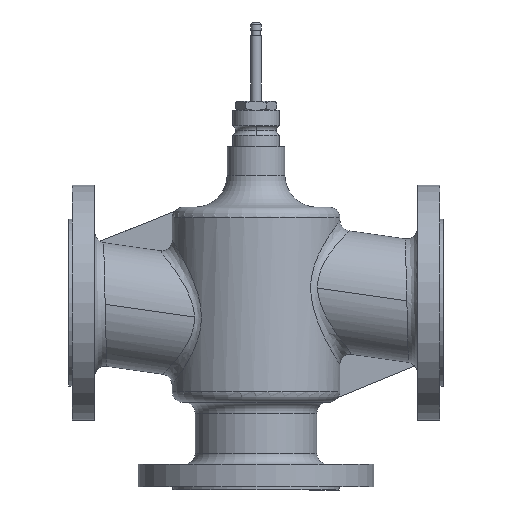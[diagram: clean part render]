
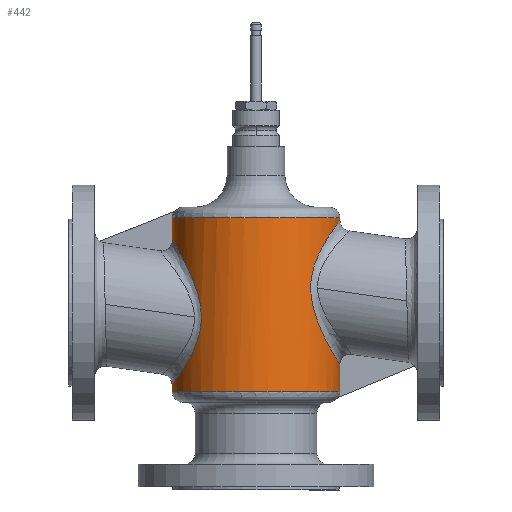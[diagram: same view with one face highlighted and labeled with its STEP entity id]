
A CAD part, left-side view. The second image highlights one B-rep face of the part: STEP entity #442.
In plain terms, the highlighted cylindrical face has radius 78.407 mm (diameter 156.814 mm), a partial arc.
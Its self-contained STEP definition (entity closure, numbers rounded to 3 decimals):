
#225=CIRCLE('',#2949,78.407);
#233=CIRCLE('',#2959,78.407);
#442=ADVANCED_FACE('',(#704),#602,.T.);
#602=CYLINDRICAL_SURFACE('',#2967,78.407);
#704=FACE_OUTER_BOUND('',#851,.T.);
#851=EDGE_LOOP('',(#1186,#1187,#1188,#1189,#1190,#1191,#1192,#1193));
#1095=B_SPLINE_CURVE_WITH_KNOTS('',3,(#4561,#4562,#4563,#4564,#4565,#4566,
#4567,#4568,#4569,#4570,#4571,#4572,#4573,#4574,#4575,#4576,#4577,#4578,
#4579,#4580,#4581,#4582),.UNSPECIFIED.,.F.,.F.,(4,2,2,2,2,2,2,2,2,2,4),(0.,
0.073,0.171,0.278,0.378,
0.485,0.59,0.683,0.777,
0.928,1.),.UNSPECIFIED.);
#1096=B_SPLINE_CURVE_WITH_KNOTS('',3,(#4585,#4586,#4587,#4588,#4589,#4590,
#4591,#4592,#4593,#4594,#4595,#4596,#4597,#4598,#4599,#4600,#4601,#4602,
#4603,#4604,#4605,#4606,#4607,#4608),.UNSPECIFIED.,.F.,.F.,(4,2,2,2,2,2,
2,2,2,2,2,4),(0.,0.073,0.168,0.278,0.381,
0.488,0.584,0.698,0.824,
0.892,0.961,1.),.UNSPECIFIED.);
#1186=ORIENTED_EDGE('',*,*,#2273,.T.);
#1187=ORIENTED_EDGE('',*,*,#2262,.F.);
#1188=ORIENTED_EDGE('',*,*,#2294,.T.);
#1189=ORIENTED_EDGE('',*,*,#2295,.F.);
#1190=ORIENTED_EDGE('',*,*,#2277,.T.);
#1191=ORIENTED_EDGE('',*,*,#2284,.F.);
#1192=ORIENTED_EDGE('',*,*,#2296,.T.);
#1193=ORIENTED_EDGE('',*,*,#2297,.F.);
#1979=VERTEX_POINT('',#4376);
#1980=VERTEX_POINT('',#4378);
#1990=VERTEX_POINT('',#4460);
#1993=VERTEX_POINT('',#4489);
#1994=VERTEX_POINT('',#4491);
#2000=VERTEX_POINT('',#4531);
#2006=VERTEX_POINT('',#4560);
#2007=VERTEX_POINT('',#4584);
#2262=EDGE_CURVE('',#1979,#1980,#225,.T.);
#2273=EDGE_CURVE('',#1990,#1980,#2661,.T.);
#2277=EDGE_CURVE('',#1994,#1993,#2663,.T.);
#2284=EDGE_CURVE('',#2000,#1993,#233,.T.);
#2294=EDGE_CURVE('',#1979,#2006,#2667,.T.);
#2295=EDGE_CURVE('',#1994,#2006,#1095,.T.);
#2296=EDGE_CURVE('',#2000,#2007,#2668,.T.);
#2297=EDGE_CURVE('',#1990,#2007,#1096,.T.);
#2661=LINE('',#4459,#2801);
#2663=LINE('',#4490,#2803);
#2667=LINE('',#4559,#2807);
#2668=LINE('',#4583,#2808);
#2801=VECTOR('',#3372,1.);
#2803=VECTOR('',#3376,1.);
#2807=VECTOR('',#3402,1.);
#2808=VECTOR('',#3403,1.);
#2949=AXIS2_PLACEMENT_3D('',#4377,#3358,#3359);
#2959=AXIS2_PLACEMENT_3D('',#4532,#3384,#3385);
#2967=AXIS2_PLACEMENT_3D('',#4609,#3404,#3405);
#3358=DIRECTION('',(0.,0.,-1.));
#3359=DIRECTION('',(0.,-1.,0.));
#3372=DIRECTION('',(0.,0.,-1.));
#3376=DIRECTION('',(0.,0.,1.));
#3384=DIRECTION('',(0.,0.,1.));
#3385=DIRECTION('',(1.,0.,0.));
#3402=DIRECTION('',(0.,0.,1.));
#3403=DIRECTION('',(0.,0.,-1.));
#3404=DIRECTION('',(0.,0.,-1.));
#3405=DIRECTION('',(0.,-1.,0.));
#4376=CARTESIAN_POINT('',(-4.328,271.712,-83.04));
#4377=CARTESIAN_POINT('',(0.,350.,-83.04));
#4378=CARTESIAN_POINT('',(0.,428.407,-83.04));
#4459=CARTESIAN_POINT('',(0.,428.407,-76.687));
#4460=CARTESIAN_POINT('',(0.,428.407,-76.687));
#4489=CARTESIAN_POINT('',(0.,271.593,79.374));
#4490=CARTESIAN_POINT('',(0.,271.593,77.126));
#4491=CARTESIAN_POINT('',(0.,271.593,77.126));
#4531=CARTESIAN_POINT('',(-4.328,428.288,79.374));
#4532=CARTESIAN_POINT('',(0.,350.,79.374));
#4559=CARTESIAN_POINT('',(-4.328,271.712,-83.04));
#4560=CARTESIAN_POINT('',(-4.328,271.712,-58.097));
#4561=CARTESIAN_POINT('',(0.,271.593,77.126));
#4562=CARTESIAN_POINT('',(-4.687,271.593,77.126));
#4563=CARTESIAN_POINT('',(-9.396,272.023,76.553));
#4564=CARTESIAN_POINT('',(-19.953,273.926,73.965));
#4565=CARTESIAN_POINT('',(-25.667,275.699,71.539));
#4566=CARTESIAN_POINT('',(-36.482,280.327,64.807));
#4567=CARTESIAN_POINT('',(-41.434,283.24,60.399));
#4568=CARTESIAN_POINT('',(-49.484,288.991,50.376));
#4569=CARTESIAN_POINT('',(-52.696,291.846,44.821));
#4570=CARTESIAN_POINT('',(-57.582,296.666,31.931));
#4571=CARTESIAN_POINT('',(-59.11,298.484,24.418));
#4572=CARTESIAN_POINT('',(-59.679,299.145,9.007));
#4573=CARTESIAN_POINT('',(-58.797,298.067,1.428));
#4574=CARTESIAN_POINT('',(-55.517,294.587,-11.897));
#4575=CARTESIAN_POINT('',(-53.348,292.429,-17.693));
#4576=CARTESIAN_POINT('',(-47.862,287.79,-28.59));
#4577=CARTESIAN_POINT('',(-44.515,285.296,-33.664));
#4578=CARTESIAN_POINT('',(-34.457,279.199,-45.378));
#4579=CARTESIAN_POINT('',(-26.746,275.724,-51.33));
#4580=CARTESIAN_POINT('',(-13.489,272.636,-56.561));
#4581=CARTESIAN_POINT('',(-8.954,271.972,-57.667));
#4582=CARTESIAN_POINT('',(-4.328,271.714,-58.095));
#4583=CARTESIAN_POINT('',(-4.328,428.288,79.374));
#4584=CARTESIAN_POINT('',(-4.328,428.288,58.536));
#4585=CARTESIAN_POINT('',(0.,428.407,-76.687));
#4586=CARTESIAN_POINT('',(-4.685,428.407,-76.687));
#4587=CARTESIAN_POINT('',(-9.388,427.978,-76.115));
#4588=CARTESIAN_POINT('',(-19.748,426.111,-73.577));
#4589=CARTESIAN_POINT('',(-25.284,424.42,-71.262));
#4590=CARTESIAN_POINT('',(-36.168,419.854,-64.644));
#4591=CARTESIAN_POINT('',(-41.275,416.87,-60.149));
#4592=CARTESIAN_POINT('',(-49.601,410.928,-49.798));
#4593=CARTESIAN_POINT('',(-52.892,407.978,-44.051));
#4594=CARTESIAN_POINT('',(-57.749,403.149,-30.841));
#4595=CARTESIAN_POINT('',(-59.199,401.412,-23.312));
#4596=CARTESIAN_POINT('',(-59.617,400.927,-8.534));
#4597=CARTESIAN_POINT('',(-58.842,401.868,-1.598));
#4598=CARTESIAN_POINT('',(-55.539,405.407,12.676));
#4599=CARTESIAN_POINT('',(-52.789,408.155,19.741));
#4600=CARTESIAN_POINT('',(-45.278,414.212,33.341));
#4601=CARTESIAN_POINT('',(-40.382,417.531,39.653));
#4602=CARTESIAN_POINT('',(-31.221,422.013,47.795));
#4603=CARTESIAN_POINT('',(-27.699,423.459,50.325));
#4604=CARTESIAN_POINT('',(-20.125,425.885,54.506));
#4605=CARTESIAN_POINT('',(-16.019,426.873,56.17));
#4606=CARTESIAN_POINT('',(-9.337,427.888,57.871));
#4607=CARTESIAN_POINT('',(-6.846,428.148,58.304));
#4608=CARTESIAN_POINT('',(-4.328,428.287,58.536));
#4609=CARTESIAN_POINT('',(0.,350.,-1.833));
